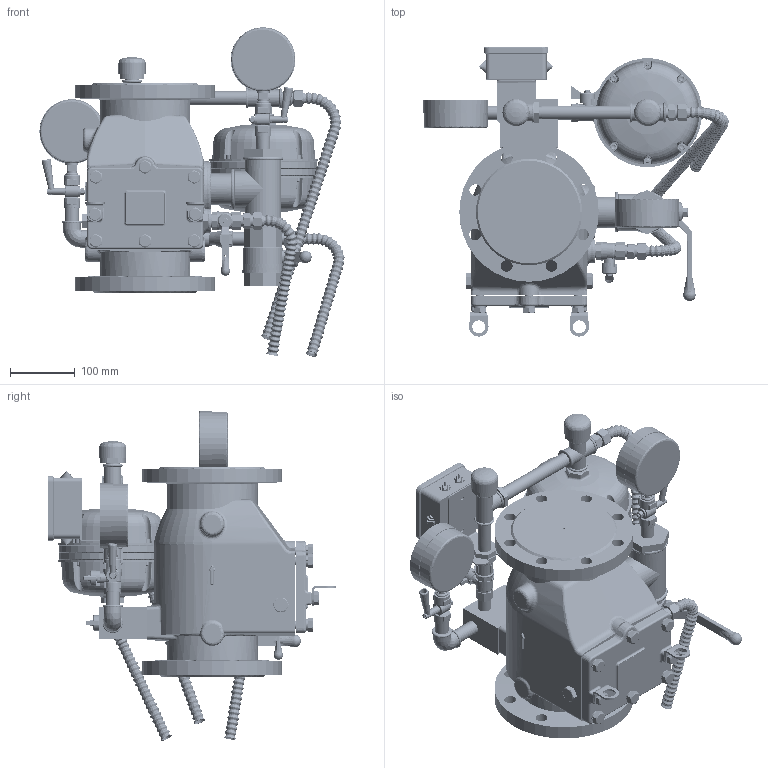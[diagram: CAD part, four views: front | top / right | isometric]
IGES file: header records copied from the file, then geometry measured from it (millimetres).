
Start section: File generated by T-FLEX CAD Version (null)
Global section: file name:                DN 100     _3D.igs; native system: T-FLEX CAD; date: 211013.152517; units: millimetre
Bounding box: 470.88 x 445.8 x 508.26 mm (x, y, z)
Volume: 14353567.3 mm3; surface area: 1277985.8 mm2
Topology: 60 solids, 88 shells, 4682 faces, 11290 edges, 6686 vertices
Faces by surface type: cylinder 1546, plane 1451, bspline 673, revolution 478, cone 415, sphere 119
